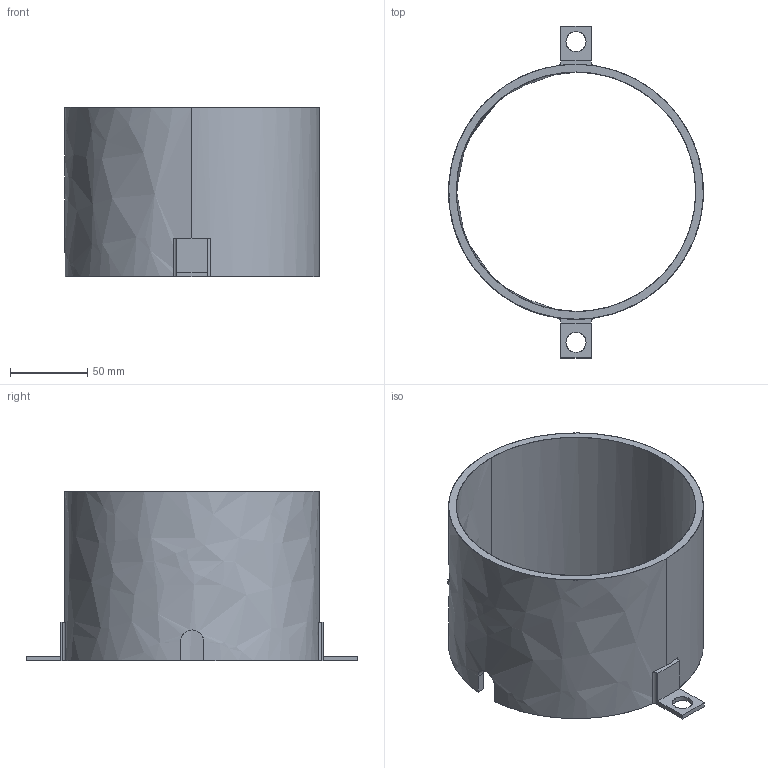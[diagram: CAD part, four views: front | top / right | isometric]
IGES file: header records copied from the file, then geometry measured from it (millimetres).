
Global section: file name: E:\UnigraphicsGraphicData\MISUMI_PRESS-PARTS\IGES\3d_ph100-110-r_07049_r00.igs; native system: NX V5.0; preprocessor: UGS NX IGES V5.0; author: MISUMI; date: 20110105.162242; units: millimetre
Bounding box: 165.2 x 215.2 x 110 mm (x, y, z)
Surface area: 120202 mm2 (no closed solid volume)
Topology: 0 solids, 0 shells, 41 faces, 290 edges, 290 vertices
Faces by surface type: bspline 41
